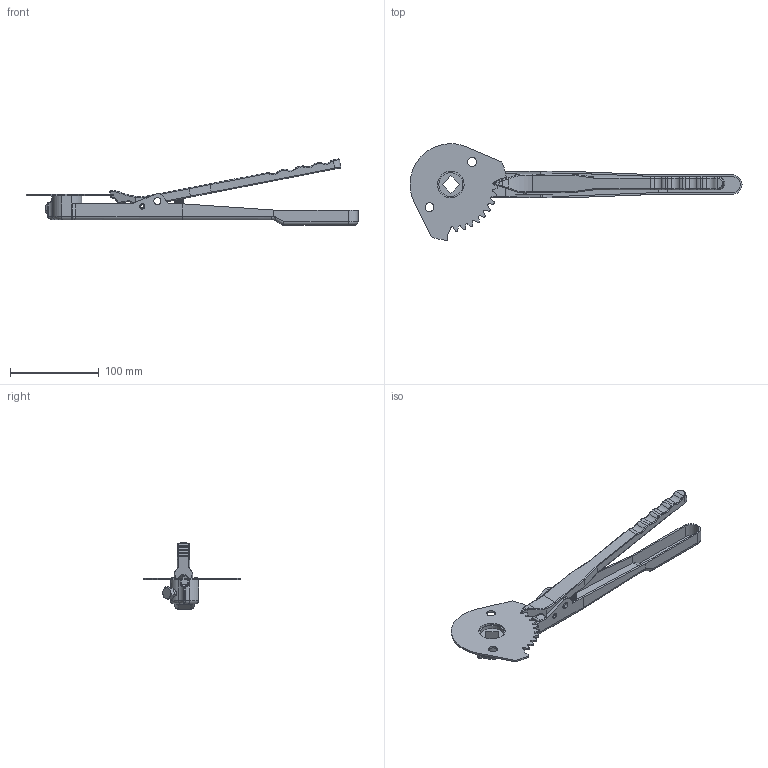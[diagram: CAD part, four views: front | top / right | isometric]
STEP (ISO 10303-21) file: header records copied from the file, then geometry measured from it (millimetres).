
FILE_DESCRIPTION (( 'STEP AP203' ), '1' );
FILE_NAME ('6※忒梟.STEP', '2026-03-04T03:40:35', ( '' ), ( '' ), 'SwSTEP 2.0', 'SolidWorks 2018', '' );
FILE_SCHEMA (( 'CONFIG_CONTROL_DESIGN' ));
Length unit declared in the file: millimetre
Products named in the file (7): HB362-65端部并紧不磨平支承1圈10×25; 6※忒梟; spring pin slotted heavy duty1 gb_GB_PARALLEL_PINS_TYPE6 6X30; 新型玛钢手柄4-6寸不锈钢齿盘; 鞠褒芛蹟邡 M8x16; 新型玛钢手柄6寸副手柄; 新型玛钢手柄6寸主手柄-立方孔
Assembly tree (6 placements, depth 2):
  6※忒梟
    新型玛钢手柄6寸主手柄-立方孔
    spring pin slotted heavy duty1 gb_GB_PARALLEL_PINS_TYPE6 6X30
    新型玛钢手柄4-6寸不锈钢齿盘
    新型玛钢手柄6寸副手柄
    鞠褒芛蹟邡 M8x16
    HB362-65端部并紧不磨平支承1圈10×25
Bounding box: 373.97 x 108.76 x 74.64 mm (x, y, z)
Volume: 93368.2 mm3; surface area: 79140.5 mm2
Topology: 7 solids, 7 shells, 472 faces, 1185 edges, 715 vertices
Faces by surface type: cylinder 209, plane 131, torus 63, bspline 47, sphere 11, cone 11
Entity records: 21304 total; most frequent: CARTESIAN_POINT 9547, DIRECTION 2376, ORIENTED_EDGE 2328, EDGE_CURVE 1164, AXIS2_PLACEMENT_3D 926, VERTEX_POINT 709, LINE 524, VECTOR 524
